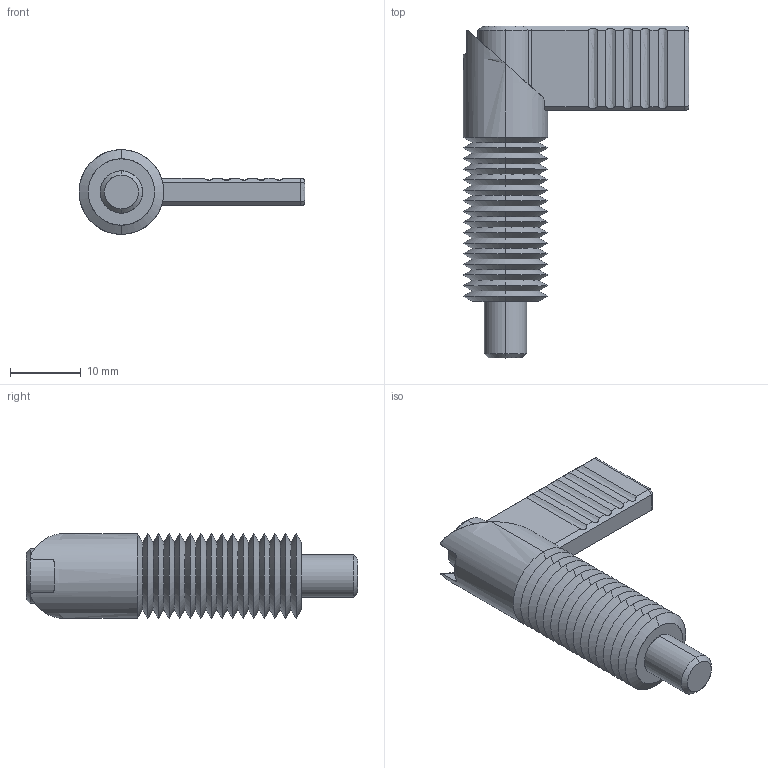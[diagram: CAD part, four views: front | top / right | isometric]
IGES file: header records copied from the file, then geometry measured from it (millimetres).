
Start section: SolidWorks IGES file using analytic representation for surfaces
Global section: file name: C:\Documents and Settings\IANO\My Documents\Wix and Auto CAD Work\CAD Models\Parametric Models\Wix Models\30000\32500_v2\32500_v2_20160309_IGES\32500.W0004.igs; native system: SolidWorks 2009; preprocessor: SolidWorks 2009; author: IANO; date: 160630.164217; units: millimetre
Bounding box: 32 x 47 x 12 mm (x, y, z)
Surface area: 4623.6 mm2 (no closed solid volume)
Topology: 0 solids, 0 shells, 143 faces, 1344 edges, 1344 vertices
Faces by surface type: revolution 116, bspline 27
